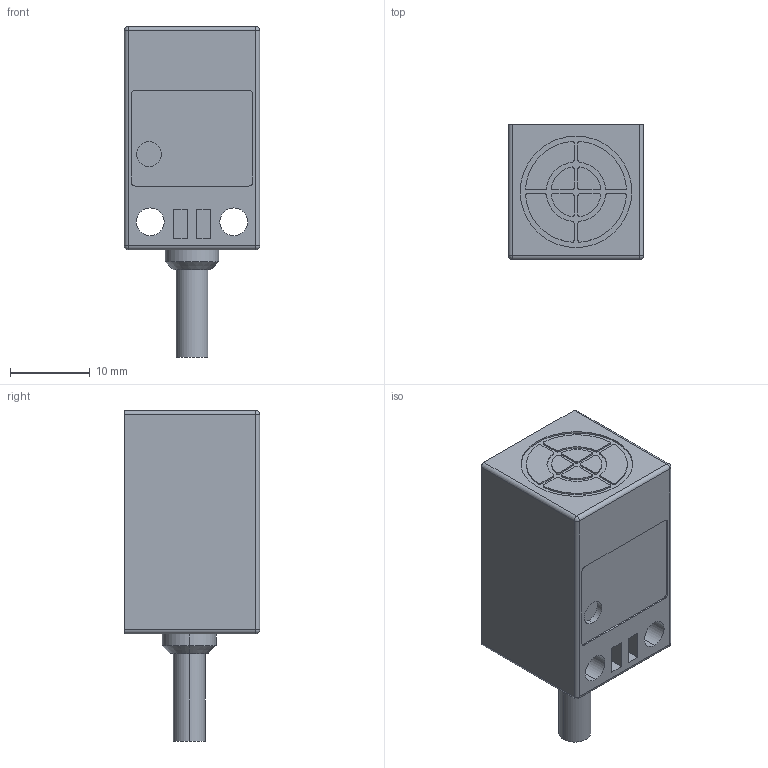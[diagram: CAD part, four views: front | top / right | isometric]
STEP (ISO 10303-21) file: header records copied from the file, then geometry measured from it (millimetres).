
FILE_DESCRIPTION (( 'STEP AP214' ), '1' );
FILE_NAME ('SS17-D.STEP', '2025-09-02T00:57:21', ( 'Windows User' ), ( 'P R C' ), 'SwSTEP 2.0', 'SolidWorks 2023', '' );
FILE_SCHEMA (( 'AUTOMOTIVE_DESIGN' ));
Length unit declared in the file: millimetre
Products named in the file (3): SS17.STEP; SS17-D; SS17-Q-Z____.STEP
Assembly tree (2 placements, depth 3):
  SS17-D
    SS17.STEP
      SS17-Q-Z____.STEP
Bounding box: 17 x 17 x 41.5 mm (x, y, z)
Volume: 7871.2 mm3; surface area: 3098 mm2
Topology: 1 solids, 1 shells, 123 faces, 308 edges, 198 vertices
Faces by surface type: cylinder 68, plane 49, sphere 4, cone 2
Entity records: 3773 total; most frequent: DIRECTION 700, CARTESIAN_POINT 631, ORIENTED_EDGE 608, EDGE_CURVE 304, AXIS2_PLACEMENT_3D 267, VERTEX_POINT 198, VECTOR 166, LINE 166
